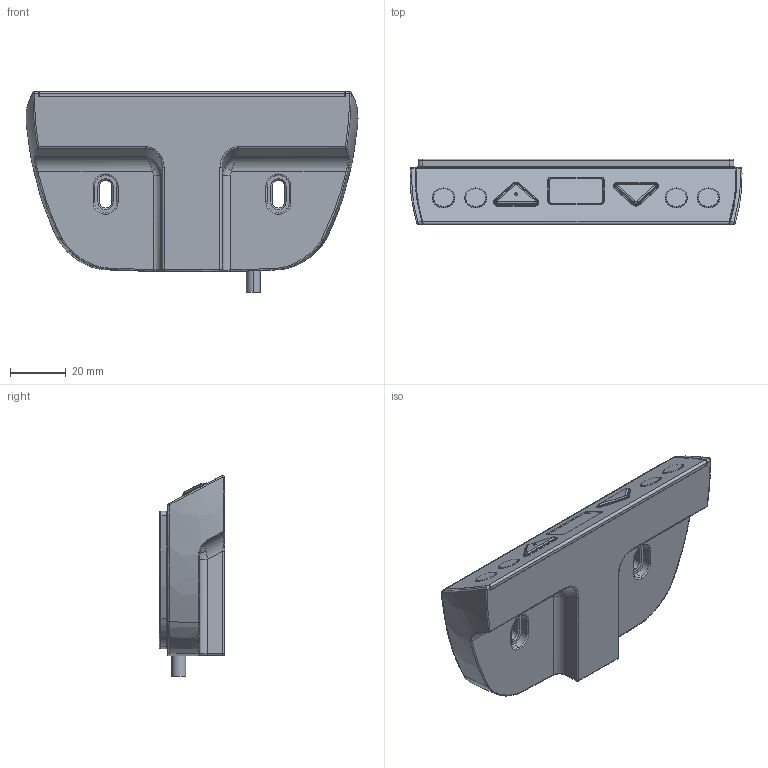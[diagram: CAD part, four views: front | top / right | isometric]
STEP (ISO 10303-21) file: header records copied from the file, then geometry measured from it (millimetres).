
FILE_DESCRIPTION (( 'STEP AP203' ), '1' );
FILE_NAME ('產品三維模型圖-TDH5PR-A.STEP', '2018-04-24T09:50:41', ( '' ), ( '' ), 'SwSTEP 2.0', 'SolidWorks 2015', '' );
FILE_SCHEMA (( 'CONFIG_CONTROL_DESIGN' ));
Length unit declared in the file: millimetre
Products named in the file (1): 產品三維模型圖-TDH5PR-A
Bounding box: 119.11 x 23.5 x 72.05 mm (x, y, z)
Volume: 110681.5 mm3; surface area: 38059.8 mm2
Topology: 13 solids, 14 shells, 524 faces, 1245 edges, 762 vertices
Faces by surface type: plane 170, cylinder 147, bspline 103, torus 94, cone 10
Entity records: 20122 total; most frequent: CARTESIAN_POINT 8479, ORIENTED_EDGE 2486, DIRECTION 2329, EDGE_CURVE 1243, AXIS2_PLACEMENT_3D 920, VERTEX_POINT 762, EDGE_LOOP 559, FACE_OUTER_BOUND 524
